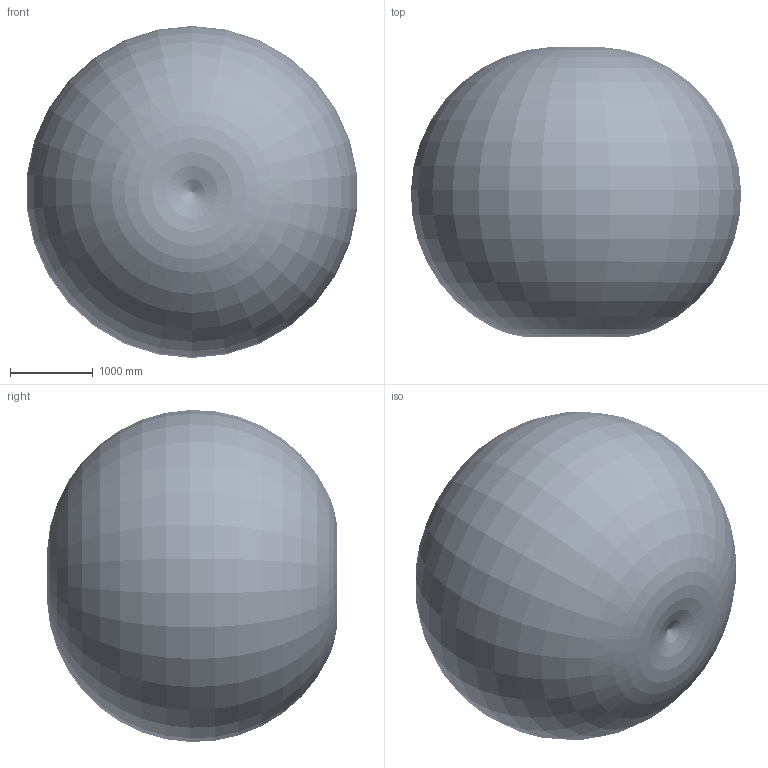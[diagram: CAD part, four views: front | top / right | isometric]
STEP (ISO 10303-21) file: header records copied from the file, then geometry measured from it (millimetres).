
FILE_DESCRIPTION (( 'STEP AP214' ), '1' );
FILE_NAME ('AIR12-2000C_HI 3D model.STP', '2024-02-06T06:03:22', ( 'Windows User' ), ( 'P R C' ), 'SwSTEP 2.0', 'SolidWorks 2011', '' );
FILE_SCHEMA (( 'AUTOMOTIVE_DESIGN' ));
Length unit declared in the file: millimetre
Products named in the file (9): AIR12-2000C_HI-Working range; AIR12-2000C_HI-Flange; AIR12-2000C_HI-Wrist; AIR12-2000C_HI-Lower-arm; AIR12-2000C_HI-Elbow; AIR12-2000C_HI-Upper-arm; AIR12-2000C_HI-Shoulder; AIR12-2000C_HI-Base; AIR12-2000C_HI 3D model
Assembly tree (8 placements, depth 2):
  AIR12-2000C_HI 3D model
    AIR12-2000C_HI-Flange
    AIR12-2000C_HI-Base
    AIR12-2000C_HI-Elbow
    AIR12-2000C_HI-Upper-arm
    AIR12-2000C_HI-Lower-arm
    AIR12-2000C_HI-Shoulder
    AIR12-2000C_HI-Working range
    AIR12-2000C_HI-Wrist
Bounding box: 3979.91 x 3498.29 x 4001.83 mm (x, y, z)
Volume: 30154866480.7 mm3; surface area: 57498340.3 mm2
Topology: 232 solids, 363 shells, 22460 faces, 56695 edges, 35589 vertices
Faces by surface type: plane 10362, cylinder 6033, bspline 3037, cone 2169, torus 780, sphere 79
Entity records: 1228789 total; most frequent: CARTESIAN_POINT 479823, ORIENTED_EDGE 111661, DIRECTION 99178, EDGE_CURVE 55834, VERTEX_POINT 35550, AXIS2_PLACEMENT_3D 35474, VECTOR 28230, LINE 28230
